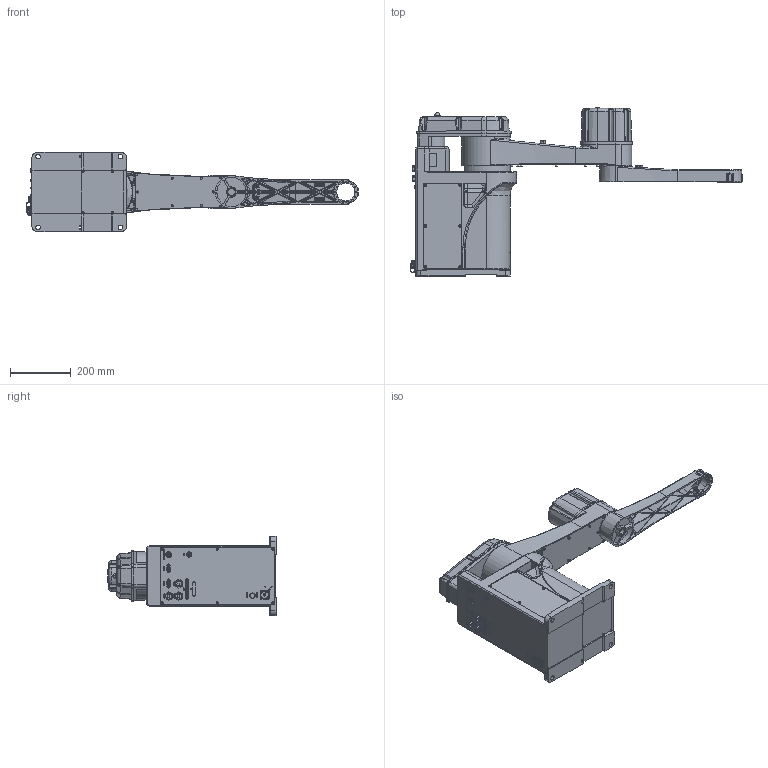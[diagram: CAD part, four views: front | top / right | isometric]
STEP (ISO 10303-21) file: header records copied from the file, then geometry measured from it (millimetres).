
FILE_DESCRIPTION (( 'STEP AP203' ), '1' );
FILE_NAME ('HM3-0800-0652-0000-V1.0.STEP', '2021-12-07T07:35:02', ( '' ), ( '' ), 'SwSTEP 2.0', 'SolidWorks 2017', '' );
FILE_SCHEMA (( 'CONFIG_CONTROL_DESIGN' ));
Length unit declared in the file: millimetre
Products named in the file (4): HM3-0800-0652-0000-T3-V1.0; HM3-0800-0652-0000-V1.0; HM3-0800-0652-0000-T1-V1.0; HM3-0800-0652-0000-T2-V1.0
Assembly tree (3 placements, depth 2):
  HM3-0800-0652-0000-V1.0
    HM3-0800-0652-0000-T1-V1.0
    HM3-0800-0652-0000-T2-V1.0
    HM3-0800-0652-0000-T3-V1.0
Bounding box: 1089.6 x 552 x 260 mm (x, y, z)
Volume: 5939111.9 mm3; surface area: 1364995 mm2
Topology: 2 solids, 64 shells, 4795 faces, 12638 edges, 8079 vertices
Faces by surface type: plane 1887, cylinder 1227, bspline 784, cone 631, torus 185, sphere 81
Entity records: 233674 total; most frequent: CARTESIAN_POINT 122429, ORIENTED_EDGE 24304, DIRECTION 20719, EDGE_CURVE 12472, VERTEX_POINT 8058, AXIS2_PLACEMENT_3D 7405, LINE 5909, VECTOR 5909
